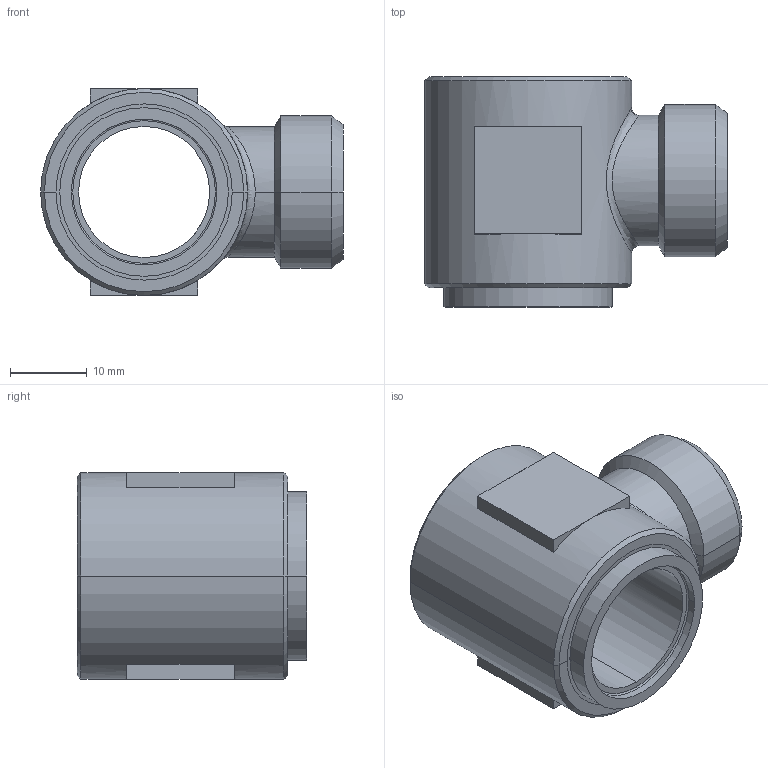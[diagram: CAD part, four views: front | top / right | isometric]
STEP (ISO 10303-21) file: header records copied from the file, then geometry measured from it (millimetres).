
FILE_DESCRIPTION((''),'2;1');
FILE_NAME('101317.stp','2007-10-30T15:39:49',(''),(''),'AutoCAD STEP 2000i','AutoCAD 2000i',', , ');
FILE_SCHEMA(('CONFIG_CONTROL_DESIGN'));
Length unit declared in the file: millimetre
Products named in the file (2): 101317.0; 1094#0
Assembly tree (1 placements, depth 2):
  101317.0
    1094#0
Bounding box: 39.5 x 30 x 27 mm (x, y, z)
Volume: 12139.1 mm3; surface area: 6169.6 mm2
Topology: 1 solids, 1 shells, 55 faces, 127 edges, 79 vertices
Faces by surface type: plane 20, cylinder 16, cone 14, bspline 5
Entity records: 2082 total; most frequent: CARTESIAN_POINT 697, DIRECTION 285, ORIENTED_EDGE 254, EDGE_CURVE 127, AXIS2_PLACEMENT_3D 115, VERTEX_POINT 79, EDGE_LOOP 64, CIRCLE 63
